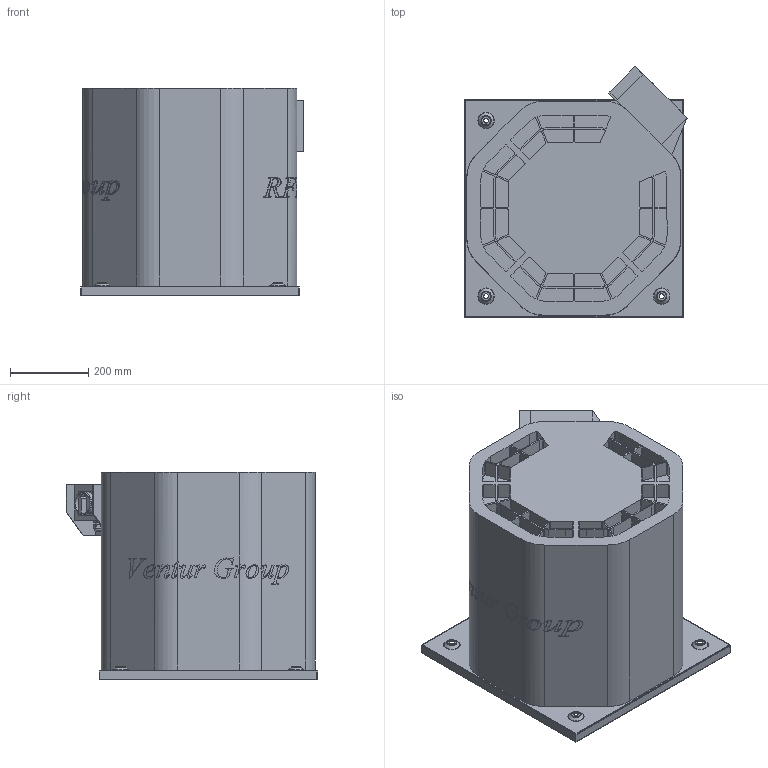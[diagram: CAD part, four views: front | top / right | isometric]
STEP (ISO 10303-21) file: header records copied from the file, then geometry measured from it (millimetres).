
FILE_DESCRIPTION(/* description */ (''),/* implementation_level */ '2;1');
FILE_NAME(/* name */ 'E:\Mariusz\Modele uproszczone\RFHT\RFHT_x_315 43534033\RFHT_x_315 43534033\RFHT_x_315 43534033.stp',/* time_stamp */ '2018-06-13T13:03:17+02:00',/* author */ ('M.Janczarek'),/* organization */ (''),/* preprocessor_version */ 'ST-DEVELOPER v16.5',/* originating_system */ 'Autodesk Inventor 2017',/* authorisation */ '');
FILE_SCHEMA (('AUTOMOTIVE_DESIGN { 1 0 10303 214 3 1 1 }'));
Products named in the file (1): RFHT_x_315 43534033
Bounding box: 570.63 x 643.45 x 532 mm (x, y, z)
Volume: 125076835.1 mm3; surface area: 1993382.8 mm2
Topology: 1 solids, 1 shells, 1458 faces, 4065 edges, 2690 vertices
Faces by surface type: plane 822, bspline 354, cylinder 209, cone 52, torus 21
Full cylindrical faces by diameter (mm): 6.186 x1, 11.5 x2, 12.4 x4, 13.5 x1, 18 x2, 20 x1, 23 x1, 52 x1, 55 x1, 56.5 x1, 60 x1
Entity records: 50685 total; most frequent: CARTESIAN_POINT 14718, ORIENTED_EDGE 8024, DIRECTION 6148, EDGE_CURVE 4012, VERTEX_POINT 2684, LINE 2516, VECTOR 2516, AXIS2_PLACEMENT_3D 1816
